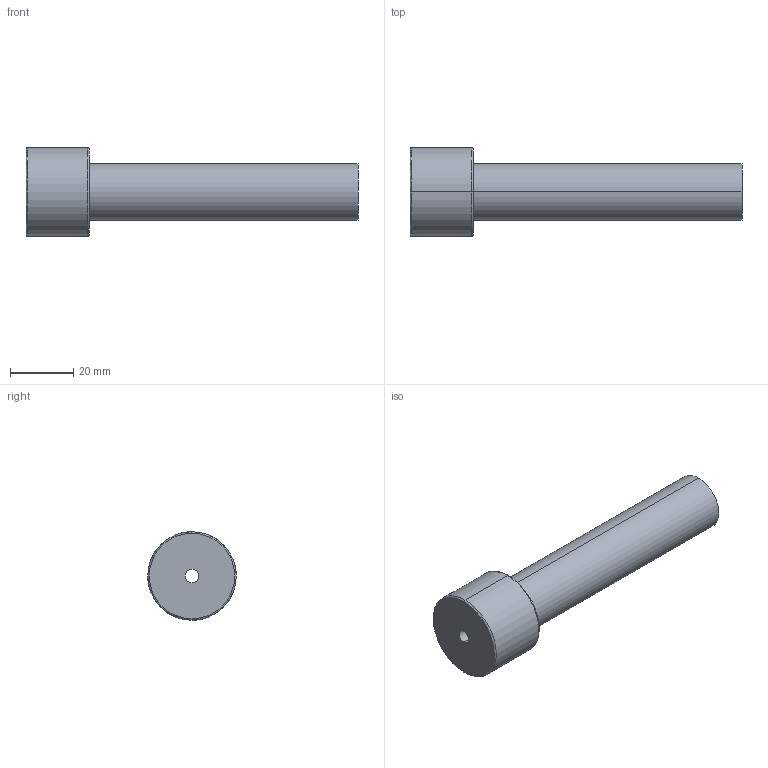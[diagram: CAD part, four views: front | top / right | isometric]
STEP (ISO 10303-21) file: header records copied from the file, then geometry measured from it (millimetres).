
FILE_DESCRIPTION(('CATIA V5 STEP Exchange'),'2;1');
FILE_NAME('C:\Users\Utente\Desktop\IO LAVORO\3D X SITO CF\X SITO\PLASTICA\3D files 367\367F-18X105.stp','2021-03-24T16:01:25+00:00',('none'),('none'),'CATIA Version 5 Release 20 GA (IN-10)','CATIA V5 STEP AP203','none');
FILE_SCHEMA(('CONFIG_CONTROL_DESIGN'));
Length unit declared in the file: millimetre
Products named in the file (1): 367F-18X105
Bounding box: 105 x 28 x 28 mm (x, y, z)
Volume: 29629.5 mm3; surface area: 9995.7 mm2
Topology: 1 solids, 1 shells, 13 faces, 42 edges, 32 vertices
Faces by surface type: torus 4, cylinder 4, plane 3, cone 2
Entity records: 614 total; most frequent: CARTESIAN_POINT 200, ORIENTED_EDGE 84, DIRECTION 60, AXIS2_PLACEMENT_3D 42, EDGE_CURVE 42, VERTEX_POINT 32, CIRCLE 28, EDGE_LOOP 16
